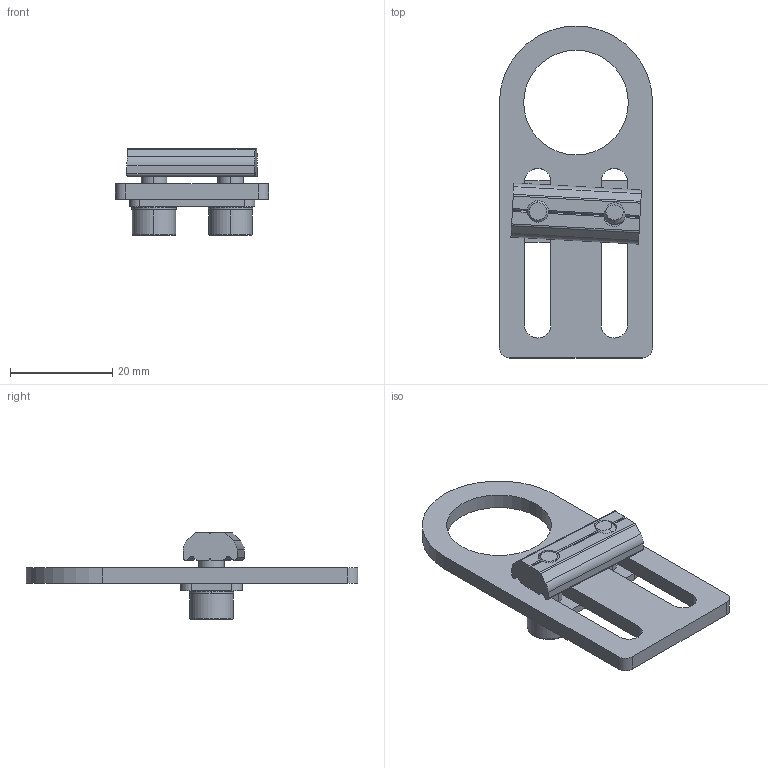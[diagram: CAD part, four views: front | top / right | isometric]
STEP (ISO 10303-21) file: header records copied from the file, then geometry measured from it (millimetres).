
FILE_DESCRIPTION (( 'STEP AP214' ), '1' );
FILE_NAME ('SMBE6-2028T.STEP', '2023-01-10T01:27:34', ( 'Windows User' ), ( 'P R C' ), 'SwSTEP 2.0', 'SolidWorks 2018', '' );
FILE_SCHEMA (( 'AUTOMOTIVE_DESIGN' ));
Length unit declared in the file: millimetre
Products named in the file (1): SMBE6-2028T
Bounding box: 30 x 65 x 17 mm (x, y, z)
Volume: 5993.3 mm3; surface area: 6288.5 mm2
Topology: 7 solids, 7 shells, 510 faces, 1476 edges, 976 vertices
Faces by surface type: plane 447, cylinder 55, cone 4, bspline 4
Entity records: 22940 total; most frequent: CARTESIAN_POINT 3425, ORIENTED_EDGE 2952, DIRECTION 2924, EDGE_CURVE 1476, AXIS2_PLACEMENT_3D 981, VERTEX_POINT 976, LINE 962, VECTOR 962
